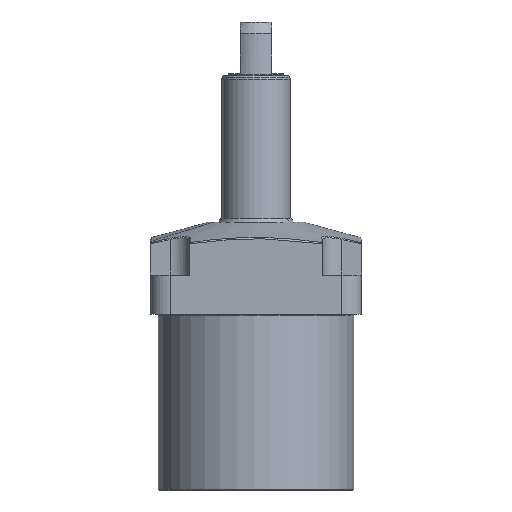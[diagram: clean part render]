
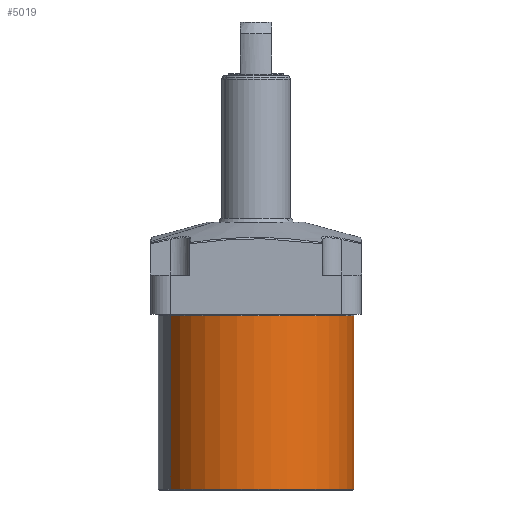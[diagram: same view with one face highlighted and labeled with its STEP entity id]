
A CAD part, left-side view. The second image highlights one B-rep face of the part: STEP entity #5019.
In plain terms, the highlighted cylindrical face has radius 50 mm (diameter 100 mm), a partial arc.
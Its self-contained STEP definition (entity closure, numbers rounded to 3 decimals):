
#4950=CARTESIAN_POINT('Vertex',(-23.971,43.879,89.2)) ;
#4953=CARTESIAN_POINT('Axis2P3D Location',(0.,0.,89.2)) ;
#4957=CARTESIAN_POINT('Vertex',(23.971,-43.879,89.2)) ;
#4989=CARTESIAN_POINT('Axis2P3D Location',(0.,0.,68.5)) ;
#4994=CARTESIAN_POINT('Line Origine',(-23.971,43.879,45.)) ;
#4998=CARTESIAN_POINT('Vertex',(-23.971,43.879,0.5)) ;
#5001=CARTESIAN_POINT('Axis2P3D Location',(0.,0.,0.5)) ;
#5005=CARTESIAN_POINT('Vertex',(23.971,-43.879,0.5)) ;
#5008=CARTESIAN_POINT('Line Origine',(23.971,-43.879,45.)) ;
#4954=DIRECTION('Axis2P3D Direction',(0.,0.,1.)) ;
#4990=DIRECTION('Axis2P3D Direction',(0.,0.,1.)) ;
#4991=DIRECTION('Axis2P3D XDirection',(-0.479,0.878,0.)) ;
#4995=DIRECTION('Vector Direction',(0.,0.,1.)) ;
#5002=DIRECTION('Axis2P3D Direction',(0.,0.,1.)) ;
#5009=DIRECTION('Vector Direction',(0.,0.,1.)) ;
#4955=AXIS2_PLACEMENT_3D('Circle Axis2P3D',#4953,#4954,$) ;
#4992=AXIS2_PLACEMENT_3D('Cylinder Axis2P3D',#4989,#4990,#4991) ;
#5003=AXIS2_PLACEMENT_3D('Circle Axis2P3D',#5001,#5002,$) ;
#5014=ORIENTED_EDGE('',*,*,#5000,.F.) ;
#5015=ORIENTED_EDGE('',*,*,#5007,.T.) ;
#5016=ORIENTED_EDGE('',*,*,#5012,.T.) ;
#5017=ORIENTED_EDGE('',*,*,#4959,.T.) ;
#4996=VECTOR('Line Direction',#4995,1.) ;
#5010=VECTOR('Line Direction',#5009,1.) ;
#5019=ADVANCED_FACE('',(#5018),#4993,.T.) ;
#4956=CIRCLE('generated circle',#4955,50.) ;
#5004=CIRCLE('generated circle',#5003,50.) ;
#4993=CYLINDRICAL_SURFACE('generated cylinder',#4992,50.) ;
#4959=EDGE_CURVE('',#4958,#4951,#4956,.F.) ;
#5000=EDGE_CURVE('',#4999,#4951,#4997,.T.) ;
#5007=EDGE_CURVE('',#4999,#5006,#5004,.T.) ;
#5012=EDGE_CURVE('',#5006,#4958,#5011,.T.) ;
#5013=EDGE_LOOP('',(#5014,#5015,#5016,#5017)) ;
#5018=FACE_OUTER_BOUND('',#5013,.T.) ;
#4997=LINE('Line',#4994,#4996) ;
#5011=LINE('Line',#5008,#5010) ;
#4951=VERTEX_POINT('',#4950) ;
#4958=VERTEX_POINT('',#4957) ;
#4999=VERTEX_POINT('',#4998) ;
#5006=VERTEX_POINT('',#5005) ;
